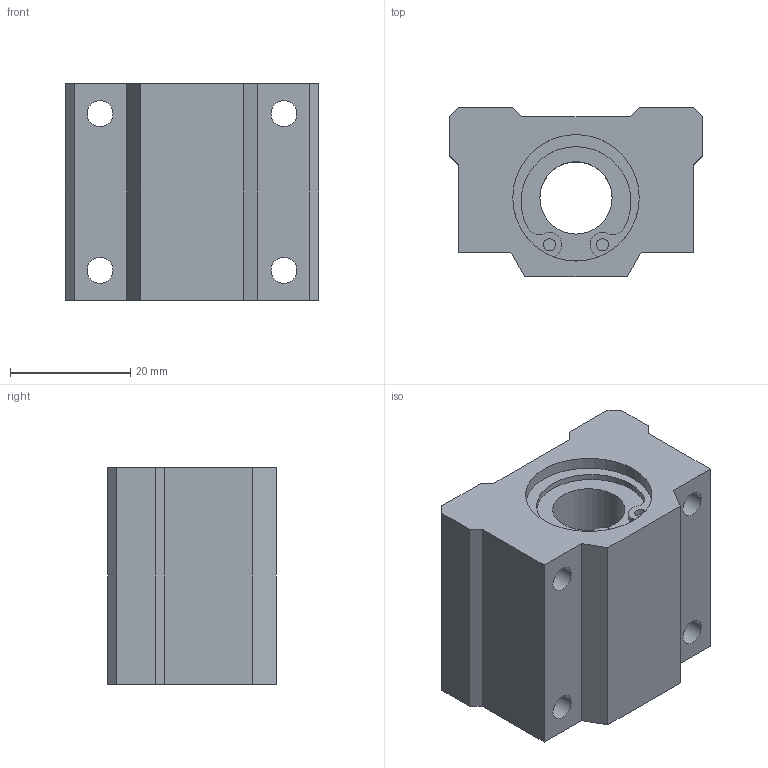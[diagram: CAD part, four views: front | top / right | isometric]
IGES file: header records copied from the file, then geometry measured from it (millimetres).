
Start section: 3D InterOp IGES (Version 21 0 1), Spatial Corp. Copyright (c) 1999-2007.
Global section: file name: LC-12VAUU.igs; native system: Spatial Corp.; preprocessor: 3D InterOp GENERIC/IGES 3.0; author: Noname; organization: Noname; date: 20220519.103804; units: millimetre
Bounding box: 42 x 28 x 36 mm (x, y, z)
Surface area: 9358 mm2 (no closed solid volume)
Topology: 0 solids, 0 shells, 82 faces, 428 edges, 428 vertices
Faces by surface type: revolution 50, extrusion 32
